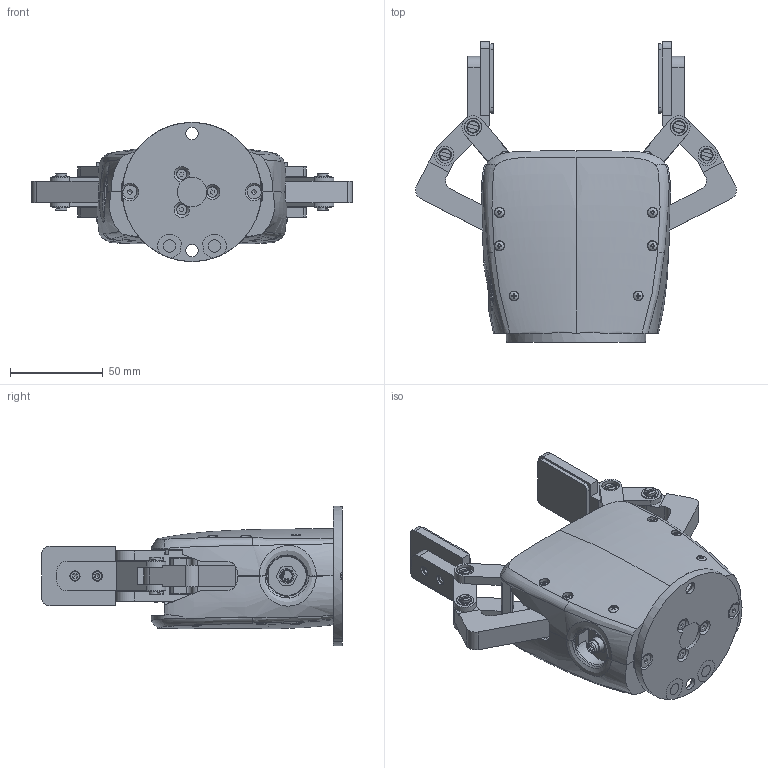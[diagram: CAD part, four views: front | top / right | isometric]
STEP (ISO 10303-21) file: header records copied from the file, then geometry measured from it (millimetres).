
FILE_DESCRIPTION (( 'STEP AP214' ), '1' );
FILE_NAME ('xArm GripperShell-17062019.STEP', '2019-06-17T10:29:58', ( '' ), ( '' ), 'SwSTEP 2.0', 'SolidWorks 2016', '' );
FILE_SCHEMA (( 'AUTOMOTIVE_DESIGN' ));
Length unit declared in the file: millimetre
Products named in the file (1): xArm GripperShell-17062019
Bounding box: 172.95 x 162.14 x 75 mm (x, y, z)
Surface area: 129292.1 mm2 (no closed solid volume)
Topology: 0 solids, 58 shells, 1710 faces, 4283 edges, 2837 vertices
Faces by surface type: plane 1009, cylinder 531, bspline 97, cone 43, sphere 20, torus 10
Full cylindrical faces by diameter (mm): 0.983 x4, 2 x4, 2.05 x4, 2.5 x34, 2.8 x8, 3 x16, 3.2 x16, 3.3 x6, 4 x32, 4.2 x3, 4.5 x8, 4.9 x16, 5 x16, 5.2 x14, 5.5 x14, 5.54 x3, 5.7 x1, 6 x19, 6.6 x4, 6.7 x1, 6.8 x16, 7.53 x2, 7.82 x1, 8 x20, 9 x6, 9.2 x8, 9.5 x8, 16 x1, 75 x1
Entity records: 187423 total; most frequent: CARTESIAN_POINT 131036, ORIENTED_EDGE 7588, DIRECTION 7442, EDGE_CURVE 3797, AXIS2_PLACEMENT_3D 2876, VERTEX_POINT 2696, EDGE_LOOP 2360, FACE_OUTER_BOUND 2024
